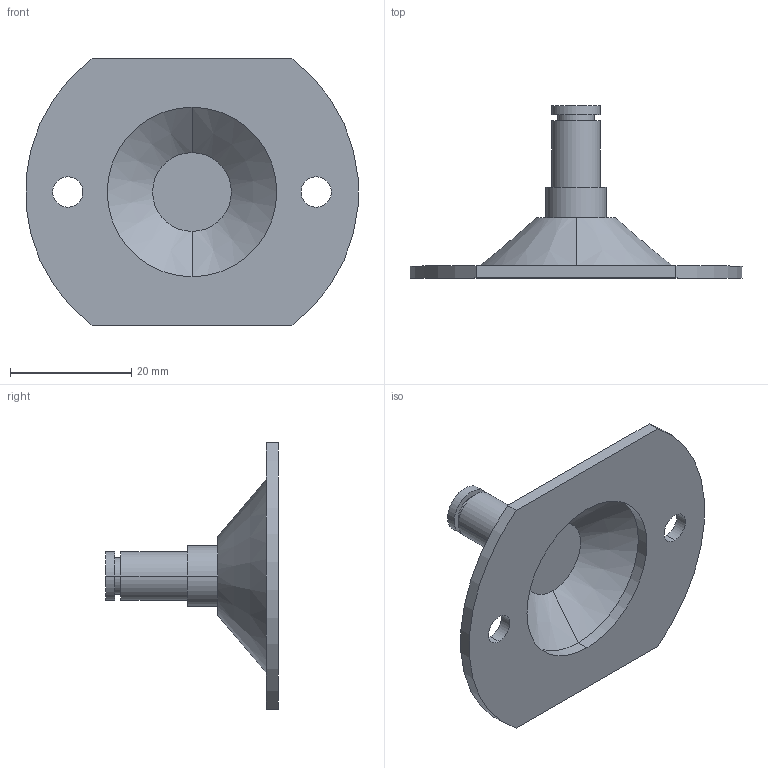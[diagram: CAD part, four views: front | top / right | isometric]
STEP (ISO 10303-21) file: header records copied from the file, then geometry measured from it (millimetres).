
FILE_DESCRIPTION (( 'STEP AP214' ), '1' );
FILE_NAME ('15.BVS-015.STEP', '2017-10-09T07:17:34', ( '' ), ( '' ), 'SwSTEP 2.0', 'SolidWorks 2016', '' );
FILE_SCHEMA (( 'AUTOMOTIVE_DESIGN' ));
Length unit declared in the file: millimetre
Products named in the file (1): 15.BVS-015
Bounding box: 54.8 x 28.5 x 44 mm (x, y, z)
Volume: 5298.5 mm3; surface area: 5627.5 mm2
Topology: 1 solids, 1 shells, 30 faces, 64 edges, 42 vertices
Faces by surface type: cylinder 16, plane 10, cone 4
Entity records: 872 total; most frequent: DIRECTION 164, CARTESIAN_POINT 137, ORIENTED_EDGE 128, AXIS2_PLACEMENT_3D 69, EDGE_CURVE 64, VERTEX_POINT 42, EDGE_LOOP 40, CIRCLE 38
